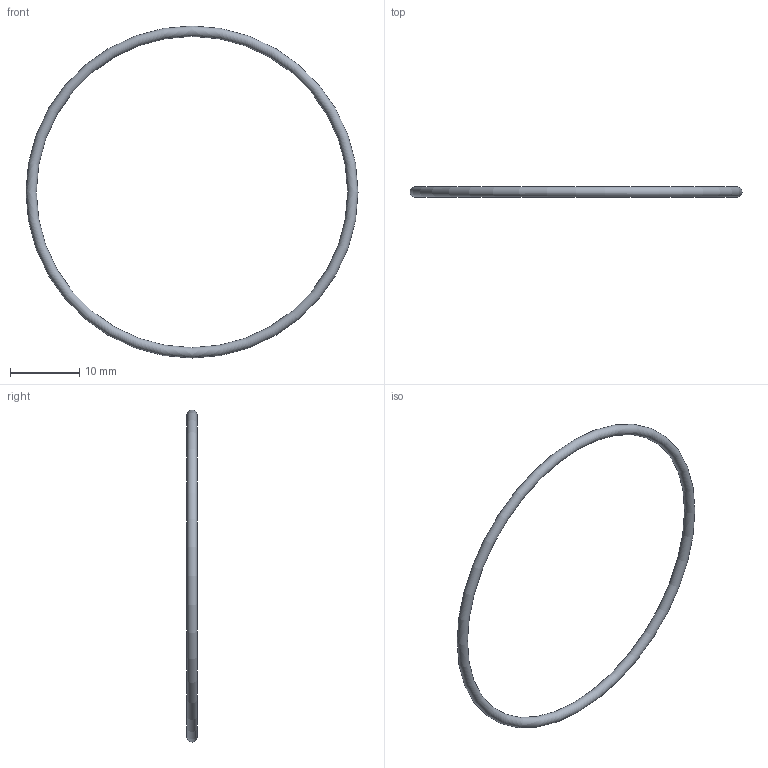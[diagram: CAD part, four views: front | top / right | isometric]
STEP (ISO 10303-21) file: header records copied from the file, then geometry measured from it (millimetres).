
FILE_DESCRIPTION( ( 'STEP AP203' ), '1' );
FILE_NAME( 'C:/Temp/Ganter_Step_05_03_2020/data/3_5/or638/O-Ring OR638-45.00-1.50-70.stp', '2020-03-12T13:44:19', ( 'License CC BY-ND 4.0' ), ( 'CADENAS' ), ' ', 'PARTsolutions', ' ' );
FILE_SCHEMA( ( 'CONFIG_CONTROL_DESIGN' ) );
Length unit declared in the file: millimetre
Products named in the file (1): _O-Ring OR638-45.00-1.50-70
Bounding box: 48 x 1.5 x 48 mm (x, y, z)
Volume: 258.2 mm3; surface area: 688.4 mm2
Topology: 1 solids, 1 shells, 1 faces, 2 edges, 1 vertices
Faces by surface type: torus 1
Entity records: 62 total; most frequent: CC_DESIGN_PERSON_AND_ORGANIZATION_ASSIGNMENT 5, PERSON_AND_ORGANIZATION_ROLE 4, DIRECTION 4, CARTESIAN_POINT 3, DATE_TIME_ROLE 2, CC_DESIGN_DATE_AND_TIME_ASSIGNMENT 2, AXIS2_PLACEMENT_3D 2, DIMENSIONAL_EXPONENTS 2
